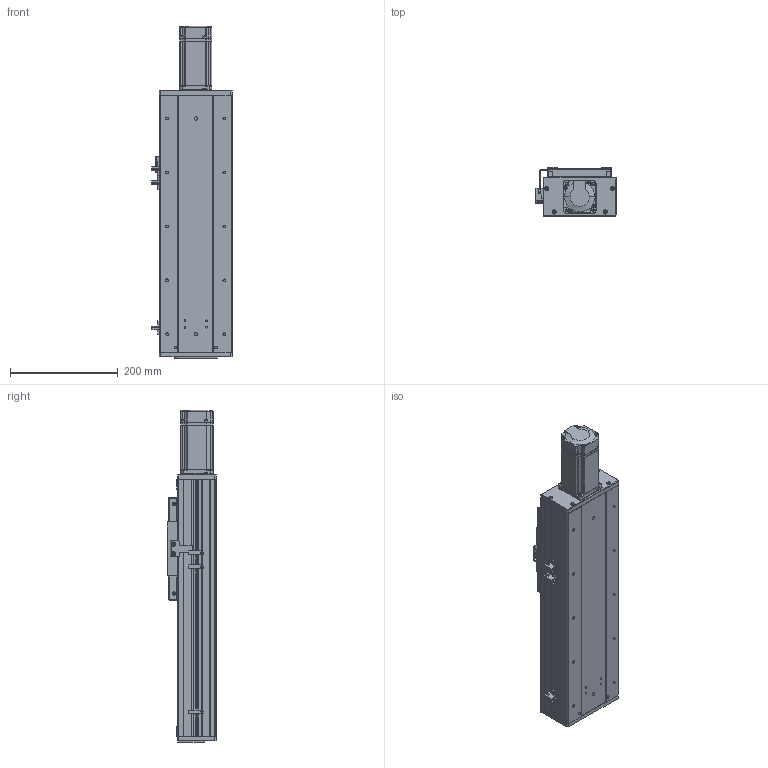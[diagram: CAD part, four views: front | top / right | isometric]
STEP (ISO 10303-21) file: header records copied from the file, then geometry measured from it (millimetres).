
FILE_DESCRIPTION (( 'STEP AP203' ), '1' );
FILE_NAME ('RY140F-L2020-300-MK.SLDASM_200.step', '2021-03-02T06:23:37', ( '盈信电脑' ), ( '东莞市道滘镇水果街19号' ), 'SwSTEP 2.0', 'SolidWorks 2012', '' );
FILE_SCHEMA (( 'CONFIG_CONTROL_DESIGN' ));
Products named in the file (18): 侐源滅袉蝶; RY140F-L2020-300-MK.SLDASM_200; 滅袉蝶18-10; RY140F-672覜茼んえ; RY140F-詩湍揤え; 覜茼ん672; RY140F-后盖板(铝件）; 15; RY140F-直连前盖板(铝件）; 侂狟400W侜督萇儂; RY140F-詩湍幗謫粣; RY140F-直连型材铝滑块(16丝杆); RY100F-詩湍揤踡謫; RY140F-滅鳥奻裔; RY140F-300-MK眻蟀倰第奻裔啣_200; RY140F-直连型材铝滑块连接座; RY140F-300-MK眻蟀倰第菁釱_200; RY140F-300-MK眻蟀詩湍_200
Assembly tree (22 placements, depth 3):
  RY140F-L2020-300-MK.SLDASM_200
    RY140F-300-MK眻蟀倰第菁釱_200
    RY140F-300-MK眻蟀倰第奻裔啣_200  x2
    RY140F-300-MK眻蟀詩湍_200
    RY140F-直连型材铝滑块连接座
    RY140F-滅鳥奻裔
    RY140F-詩湍幗謫粣
    RY100F-詩湍揤踡謫
    RY140F-直连型材铝滑块(16丝杆)
    RY140F-直连前盖板(铝件）
    RY140F-后盖板(铝件）
    侂狟400W侜督萇儂
      15
    覜茼ん672  x3
    RY140F-672覜茼んえ
    RY140F-詩湍揤え  x2
    滅袉蝶18-10
    侐源滅袉蝶  x2
Bounding box: 148.7 x 91 x 615.5 mm (x, y, z)
Volume: 2390521.9 mm3; surface area: 790861.6 mm2
Topology: 21 solids, 21 shells, 1868 faces, 5153 edges, 3326 vertices
Faces by surface type: plane 854, cylinder 838, cone 154, bspline 18, torus 4
Entity records: 54218 total; most frequent: CARTESIAN_POINT 10971, DIRECTION 8772, ORIENTED_EDGE 8502, EDGE_CURVE 4251, AXIS2_PLACEMENT_3D 3115, VERTEX_POINT 2794, VECTOR 2542, LINE 2542
